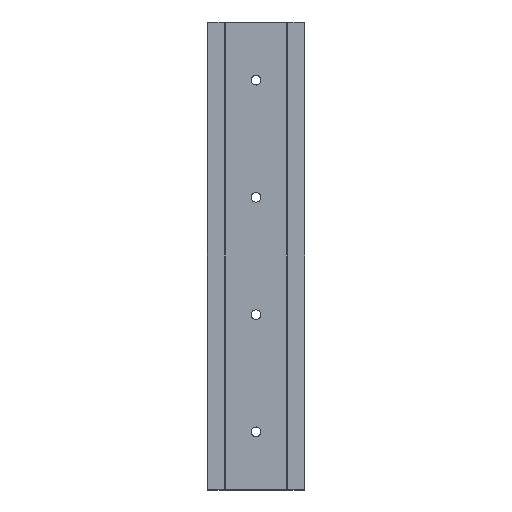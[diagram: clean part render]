
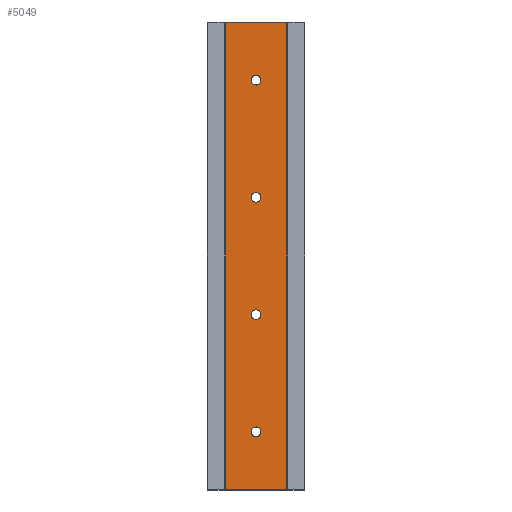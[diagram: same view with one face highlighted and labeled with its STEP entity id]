
A CAD part, left-side view. The second image highlights one B-rep face of the part: STEP entity #5049.
In plain terms, the highlighted planar face has unit normal (-1, 0, 0).
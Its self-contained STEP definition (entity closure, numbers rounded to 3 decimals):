
#90 = DIRECTION ( 'NONE',  ( 0., 0., 1. ) ) ;
#268 = CARTESIAN_POINT ( 'NONE',  ( 0., 0., 239.2 ) ) ;
#517 = CARTESIAN_POINT ( 'NONE',  ( 0., 16., 152.25 ) ) ;
#571 = EDGE_CURVE ( 'NONE', #18338, #2214, #19252, .T. ) ;
#620 = EDGE_CURVE ( 'NONE', #913, #6394, #7400, .T. ) ;
#742 = ORIENTED_EDGE ( 'NONE', *, *, #3295, .T. ) ;
#913 = VERTEX_POINT ( 'NONE', #6693 ) ;
#1333 = DIRECTION ( 'NONE',  ( 0., 0., -1. ) ) ;
#1411 = DIRECTION ( 'NONE',  ( 0., 0., -1. ) ) ;
#1829 = EDGE_CURVE ( 'NONE', #19591, #3843, #5734, .T. ) ;
#2214 = VERTEX_POINT ( 'NONE', #6806 ) ;
#2399 = EDGE_CURVE ( 'NONE', #13093, #17429, #8853, .T. ) ;
#2796 = CARTESIAN_POINT ( 'NONE',  ( 0., 16., 209.75 ) ) ;
#2821 = CIRCLE ( 'NONE', #19690, 2.5 ) ;
#2829 = EDGE_CURVE ( 'NONE', #10102, #11257, #13658, .T. ) ;
#3256 = VECTOR ( 'NONE', #10312, 1000. ) ;
#3265 = CIRCLE ( 'NONE', #11791, 2.5 ) ;
#3295 = EDGE_CURVE ( 'NONE', #15561, #13925, #3265, .T. ) ;
#3352 = DIRECTION ( 'NONE',  ( 0., 1., 0. ) ) ;
#3554 = PLANE ( 'NONE',  #7783 ) ;
#3735 = LINE ( 'NONE', #14882, #3256 ) ;
#3843 = VERTEX_POINT ( 'NONE', #12369 ) ;
#4029 = ORIENTED_EDGE ( 'NONE', *, *, #9199, .T. ) ;
#4154 = CARTESIAN_POINT ( 'NONE',  ( 0., 16., 29.75 ) ) ;
#4332 = DIRECTION ( 'NONE',  ( 0., 0., -1. ) ) ;
#4391 = CIRCLE ( 'NONE', #6384, 2.5 ) ;
#4495 = EDGE_CURVE ( 'NONE', #6394, #913, #11441, .T. ) ;
#4507 = CARTESIAN_POINT ( 'NONE',  ( 0., 16., 147.25 ) ) ;
#4655 = CARTESIAN_POINT ( 'NONE',  ( 0., 0.3, 0.3 ) ) ;
#4779 = CARTESIAN_POINT ( 'NONE',  ( 0., 31.7, 239.2 ) ) ;
#5049 = ADVANCED_FACE ( 'NONE', ( #18907, #7549, #11191, #19404, #14797 ), #3554, .F. ) ;
#5080 = AXIS2_PLACEMENT_3D ( 'NONE', #7150, #17964, #8721 ) ;
#5375 = EDGE_CURVE ( 'NONE', #13925, #15561, #4391, .T. ) ;
#5514 = ORIENTED_EDGE ( 'NONE', *, *, #7491, .T. ) ;
#5727 = DIRECTION ( 'NONE',  ( 0., 0., -1. ) ) ;
#5734 = CIRCLE ( 'NONE', #13709, 2.5 ) ;
#5934 = CARTESIAN_POINT ( 'NONE',  ( 0., 16., 29.75 ) ) ;
#6205 = ORIENTED_EDGE ( 'NONE', *, *, #18742, .T. ) ;
#6376 = DIRECTION ( 'NONE',  ( 1., 0., 0. ) ) ;
#6384 = AXIS2_PLACEMENT_3D ( 'NONE', #15589, #6376, #17175 ) ;
#6394 = VERTEX_POINT ( 'NONE', #9760 ) ;
#6693 = CARTESIAN_POINT ( 'NONE',  ( 0., 16., 212.25 ) ) ;
#6806 = CARTESIAN_POINT ( 'NONE',  ( 0., 0.3, 239.2 ) ) ;
#7099 = CARTESIAN_POINT ( 'NONE',  ( 0., 16., 92.25 ) ) ;
#7150 = CARTESIAN_POINT ( 'NONE',  ( 0., 16., 209.75 ) ) ;
#7400 = CIRCLE ( 'NONE', #14211, 2.5 ) ;
#7478 = DIRECTION ( 'NONE',  ( 0., 0., -1. ) ) ;
#7491 = EDGE_CURVE ( 'NONE', #11257, #10102, #9387, .T. ) ;
#7549 = FACE_BOUND ( 'NONE', #12566, .T. ) ;
#7783 = AXIS2_PLACEMENT_3D ( 'NONE', #17538, #8277, #19071 ) ;
#8277 = DIRECTION ( 'NONE',  ( 1., 0., 0. ) ) ;
#8370 = VECTOR ( 'NONE', #18818, 1000. ) ;
#8416 = EDGE_CURVE ( 'NONE', #2214, #13093, #16820, .T. ) ;
#8721 = DIRECTION ( 'NONE',  ( 0., 0., -1. ) ) ;
#8853 = LINE ( 'NONE', #17278, #8370 ) ;
#9022 = CARTESIAN_POINT ( 'NONE',  ( 0., 16., 89.75 ) ) ;
#9061 = AXIS2_PLACEMENT_3D ( 'NONE', #9022, #19825, #10581 ) ;
#9098 = VECTOR ( 'NONE', #3352, 1000. ) ;
#9199 = EDGE_CURVE ( 'NONE', #17429, #18338, #3735, .T. ) ;
#9349 = EDGE_LOOP ( 'NONE', ( #5514, #11442 ) ) ;
#9387 = CIRCLE ( 'NONE', #14071, 2.5 ) ;
#9737 = CARTESIAN_POINT ( 'NONE',  ( 0., 31.7, 0.3 ) ) ;
#9760 = CARTESIAN_POINT ( 'NONE',  ( 0., 16., 207.25 ) ) ;
#9860 = EDGE_LOOP ( 'NONE', ( #17477, #6205 ) ) ;
#10102 = VERTEX_POINT ( 'NONE', #7099 ) ;
#10278 = CARTESIAN_POINT ( 'NONE',  ( 0., 16., 27.25 ) ) ;
#10312 = DIRECTION ( 'NONE',  ( 0., -1., 0. ) ) ;
#10547 = DIRECTION ( 'NONE',  ( 1., 0., 0. ) ) ;
#10581 = DIRECTION ( 'NONE',  ( 0., 0., -1. ) ) ;
#10641 = DIRECTION ( 'NONE',  ( 1., 0., 0. ) ) ;
#11191 = FACE_BOUND ( 'NONE', #12961, .T. ) ;
#11257 = VERTEX_POINT ( 'NONE', #11582 ) ;
#11441 = CIRCLE ( 'NONE', #5080, 2.5 ) ;
#11442 = ORIENTED_EDGE ( 'NONE', *, *, #2829, .T. ) ;
#11582 = CARTESIAN_POINT ( 'NONE',  ( 0., 16., 87.25 ) ) ;
#11791 = AXIS2_PLACEMENT_3D ( 'NONE', #19789, #10547, #1333 ) ;
#11874 = ORIENTED_EDGE ( 'NONE', *, *, #4495, .T. ) ;
#12369 = CARTESIAN_POINT ( 'NONE',  ( 0., 16., 32.25 ) ) ;
#12566 = EDGE_LOOP ( 'NONE', ( #11874, #14024 ) ) ;
#12961 = EDGE_LOOP ( 'NONE', ( #742, #19930 ) ) ;
#13093 = VERTEX_POINT ( 'NONE', #4779 ) ;
#13597 = DIRECTION ( 'NONE',  ( 1., 0., 0. ) ) ;
#13658 = CIRCLE ( 'NONE', #9061, 2.5 ) ;
#13709 = AXIS2_PLACEMENT_3D ( 'NONE', #5934, #16733, #7478 ) ;
#13925 = VERTEX_POINT ( 'NONE', #517 ) ;
#14024 = ORIENTED_EDGE ( 'NONE', *, *, #620, .T. ) ;
#14071 = AXIS2_PLACEMENT_3D ( 'NONE', #19869, #10641, #1411 ) ;
#14211 = AXIS2_PLACEMENT_3D ( 'NONE', #2796, #13597, #4332 ) ;
#14797 = FACE_BOUND ( 'NONE', #9860, .T. ) ;
#14882 = CARTESIAN_POINT ( 'NONE',  ( 0., 0., 0.3 ) ) ;
#14956 = DIRECTION ( 'NONE',  ( 1., 0., 0. ) ) ;
#15118 = VECTOR ( 'NONE', #90, 1000. ) ;
#15438 = CARTESIAN_POINT ( 'NONE',  ( 0., 0.3, 239.5 ) ) ;
#15561 = VERTEX_POINT ( 'NONE', #4507 ) ;
#15589 = CARTESIAN_POINT ( 'NONE',  ( 0., 16., 149.75 ) ) ;
#15655 = ORIENTED_EDGE ( 'NONE', *, *, #2399, .T. ) ;
#15922 = ORIENTED_EDGE ( 'NONE', *, *, #571, .T. ) ;
#16733 = DIRECTION ( 'NONE',  ( 1., 0., 0. ) ) ;
#16820 = LINE ( 'NONE', #268, #9098 ) ;
#17175 = DIRECTION ( 'NONE',  ( 0., 0., -1. ) ) ;
#17278 = CARTESIAN_POINT ( 'NONE',  ( 0., 31.7, 239.5 ) ) ;
#17342 = ORIENTED_EDGE ( 'NONE', *, *, #8416, .T. ) ;
#17429 = VERTEX_POINT ( 'NONE', #9737 ) ;
#17477 = ORIENTED_EDGE ( 'NONE', *, *, #1829, .T. ) ;
#17538 = CARTESIAN_POINT ( 'NONE',  ( 0., 0., 239.5 ) ) ;
#17964 = DIRECTION ( 'NONE',  ( 1., 0., 0. ) ) ;
#18338 = VERTEX_POINT ( 'NONE', #4655 ) ;
#18742 = EDGE_CURVE ( 'NONE', #3843, #19591, #2821, .T. ) ;
#18818 = DIRECTION ( 'NONE',  ( 0., 0., -1. ) ) ;
#18907 = FACE_OUTER_BOUND ( 'NONE', #19188, .T. ) ;
#19071 = DIRECTION ( 'NONE',  ( 0., 0., -1. ) ) ;
#19188 = EDGE_LOOP ( 'NONE', ( #4029, #15922, #17342, #15655 ) ) ;
#19252 = LINE ( 'NONE', #15438, #15118 ) ;
#19404 = FACE_BOUND ( 'NONE', #9349, .T. ) ;
#19591 = VERTEX_POINT ( 'NONE', #10278 ) ;
#19690 = AXIS2_PLACEMENT_3D ( 'NONE', #4154, #14956, #5727 ) ;
#19789 = CARTESIAN_POINT ( 'NONE',  ( 0., 16., 149.75 ) ) ;
#19825 = DIRECTION ( 'NONE',  ( 1., 0., 0. ) ) ;
#19869 = CARTESIAN_POINT ( 'NONE',  ( 0., 16., 89.75 ) ) ;
#19930 = ORIENTED_EDGE ( 'NONE', *, *, #5375, .T. ) ;
